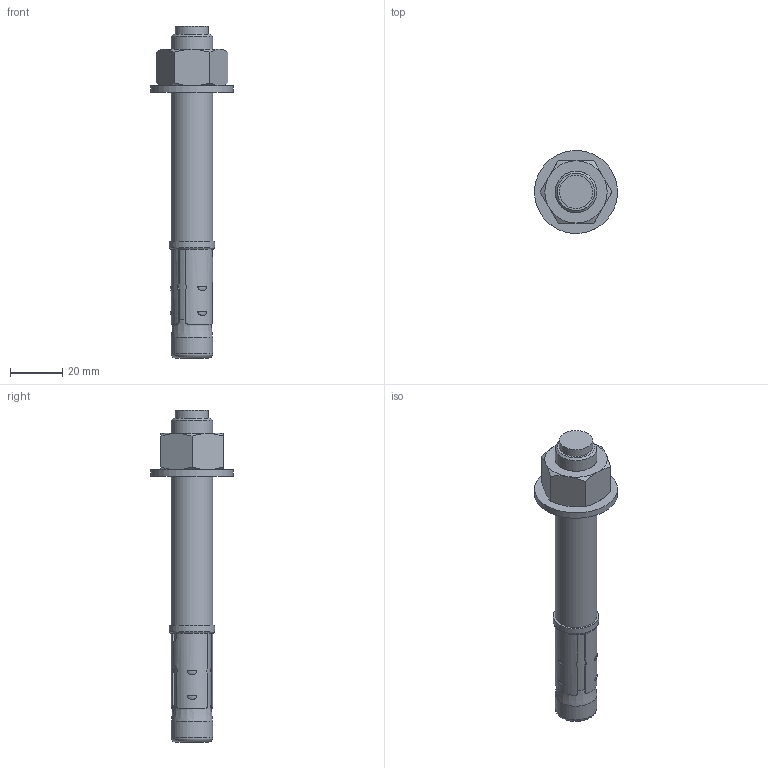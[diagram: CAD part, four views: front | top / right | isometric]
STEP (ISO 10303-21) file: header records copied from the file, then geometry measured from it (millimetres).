
FILE_DESCRIPTION(/* description */ (''),/* implementation_level */ '2;1');
FILE_NAME(/* name */ 'C:\001_Work\Designs\SAS\SAS-0.625 x 5.000 ANCHOR.stp',/* time_stamp */ '2015-10-10T16:23:36-04:00',/* author */ ('rramoutar'),/* organization */ ('Mason Industries Inc.'),/* preprocessor_version */ 'ST-DEVELOPER v15.6',/* originating_system */ 'Autodesk Inventor 2015',/* authorisation */ '');
FILE_SCHEMA (('AUTOMOTIVE_DESIGN { 1 0 10303 214 3 1 1 }'));
Length unit declared in the file: inch
Products named in the file (1): SAS-0.625 x 5.000 ANCHOR
Bounding box: 31.7 x 31.7 x 127 mm (x, y, z)
Volume: 30179.2 mm3; surface area: 8965.8 mm2
Topology: 1 solids, 1 shells, 89 faces, 202 edges, 128 vertices
Faces by surface type: plane 39, cylinder 26, cone 16, sphere 6, torus 2
Full cylindrical faces by diameter (mm): 11.112 x1, 12.7 x1, 15.875 x3, 16.662 x1, 17.462 x1, 31.75 x1
Entity records: 2834 total; most frequent: CARTESIAN_POINT 894, ORIENTED_EDGE 366, DIRECTION 366, EDGE_CURVE 183, AXIS2_PLACEMENT_3D 153, VERTEX_POINT 123, EDGE_LOOP 116, STYLED_ITEM 90
